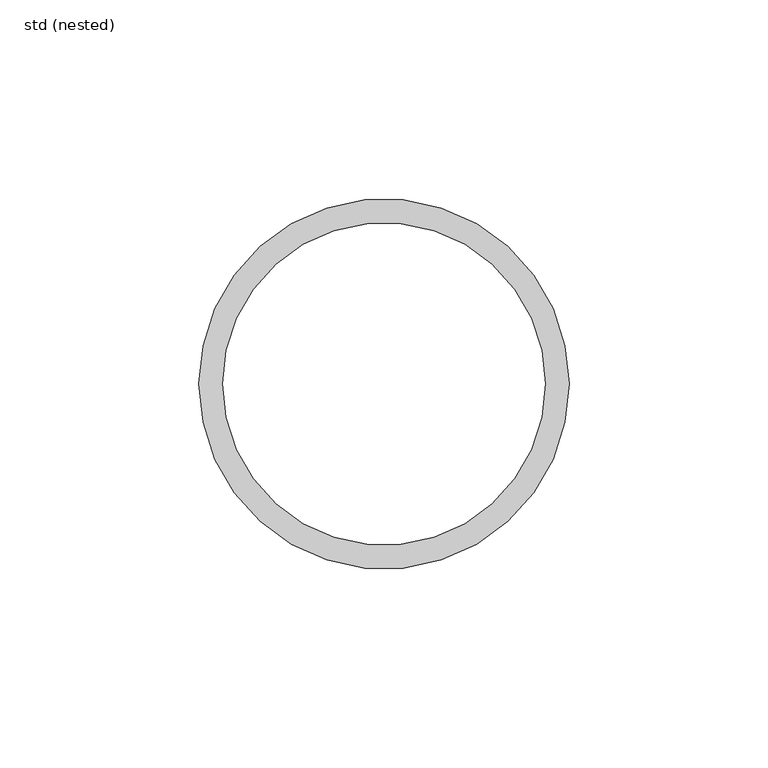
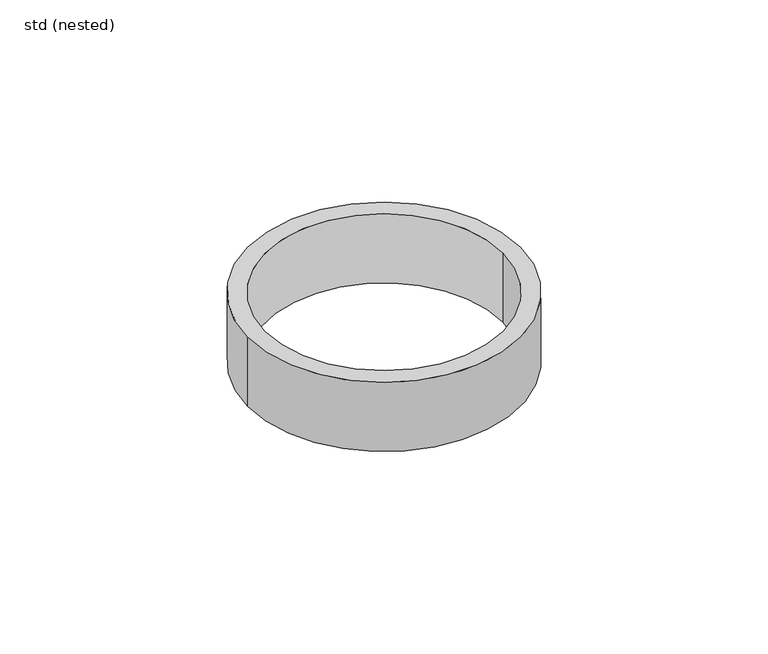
"""IFC4 building model written with IfcOpenShell, lengths in millimetres: pipe fitting geometry, ZZZ_do_not_use_PIF_GEN_UN_hose section_ACO : std (nested)."""

from ifc_helpers import new_model, si_unit, point, origin, origin_with_axes, origin_2d, place, context, project, spatial, circle_curve, trimmed, segment, composite_curve, outline, extrude, source, transform, mapped, element, save


def std_nested_97680576(model_context):
    return source(origin(), model_context, "Body", "SweptSolid", [
        extrude(outline(composite_curve([segment(trimmed(circle_curve(origin_2d(), 46.5), [point((-46.5, 0.0))], [point((46.5, 0.0))], False, "CARTESIAN"), True, "CONTINUOUS"), segment(trimmed(circle_curve(origin_2d(), 46.5), [point((46.5, 0.0))], [point((-46.5, 0.0))], False, "CARTESIAN"), True, "CONTINUOUS")], self_intersect=False), holes=[composite_curve([segment(trimmed(circle_curve(origin_2d(), 40.5), [point((-40.5, 0.0))], [point((40.5, 0.0))], True, "CARTESIAN"), True, "CONTINUOUS"), segment(trimmed(circle_curve(origin_2d(), 40.5), [point((40.5, 0.0))], [point((-40.5, 0.0))], True, "CARTESIAN"), True, "CONTINUOUS")], self_intersect=False)]), origin_with_axes(), (0.0, 0.0, 1.0), 25.0),
    ])


if __name__ == "__main__":
    model = new_model("IFC4")
    model_context = context("Model", 3, world=origin())
    ifc_project = project(units=[si_unit("LENGTHUNIT", "METRE", prefix="MILLI")], contexts=[model_context])
    site = spatial("IfcSite", under=ifc_project)
    building = spatial("IfcBuilding", under=site)
    placement = place(None, origin())
    std_nested_shape = std_nested_97680576(model_context)
    element("IfcPipeFitting", 1, ObjectType="ZZZ_do_not_use_PIF_GEN_UN_hose section_ACO : std (nested)", at=placement, inside=building, context=model_context, shape_type="MappedRepresentation", body=[
        mapped(std_nested_shape, transform((0.0, 0.0, 0.0), x_axis=(1.0, 0.0, 0.0), y_axis=(0.0, 1.0, 0.0), z_axis=(0.0, 0.0, 1.0))),
    ])
    save(model, "model.ifc")
